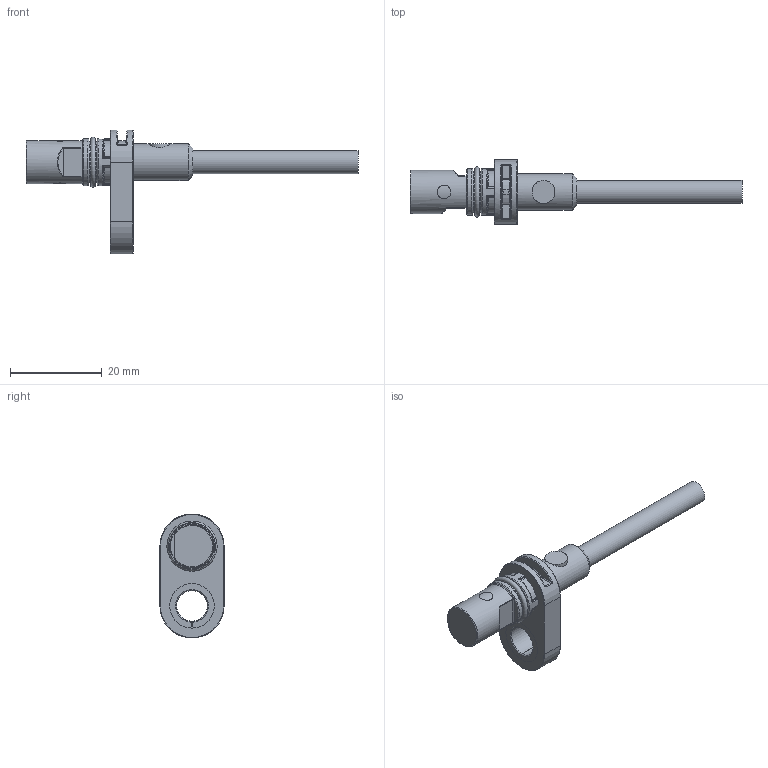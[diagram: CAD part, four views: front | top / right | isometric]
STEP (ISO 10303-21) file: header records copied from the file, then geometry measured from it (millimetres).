
FILE_DESCRIPTION(/* description */ (''),/* implementation_level */ '2;1');
FILE_NAME(/* name */ '0265a02324',/* time_stamp */ '2007-06-27T08:14:38+02:00',/* author */ (''),/* organization */ (''),/* preprocessor_version */ 'ST-DEVELOPER v9',/* originating_system */ 'EDS PLM SOLUTIONS - UNIGRAPHICS NX 2.0',/* authorisation */ '');
FILE_SCHEMA (('AUTOMOTIVE_DESIGN { 1 0 10303 214 0 1 1 1 }'));
Length unit declared in the file: millimetre
Products named in the file (1): spm9964Da647
Bounding box: 72.3 x 14 x 27 mm (x, y, z)
Volume: 3916.1 mm3; surface area: 6229.5 mm2
Topology: 15 solids, 15 shells, 1540 faces, 3941 edges, 2335 vertices
Faces by surface type: plane 738, cylinder 398, bspline 185, torus 125, cone 54, sphere 40
Full cylindrical faces by diameter (mm): 0.49 x4, 1.645 x4, 1.65 x4, 3 x8, 3.2 x2, 4.6 x2, 4.9 x2, 5 x4, 5.24 x2, 7 x8, 8 x1, 8.8 x1, 9.4 x1, 10.2 x2
Entity records: 49673 total; most frequent: CARTESIAN_POINT 14681, ORIENTED_EDGE 7228, DIRECTION 6916, EDGE_CURVE 3614, AXIS2_PLACEMENT_3D 2470, VERTEX_POINT 2280, LINE 1976, VECTOR 1976
